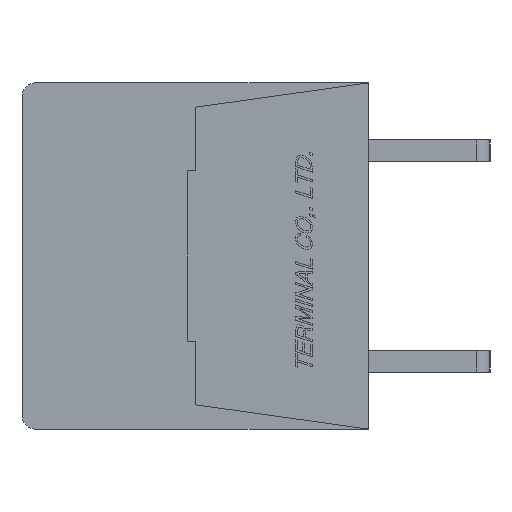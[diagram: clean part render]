
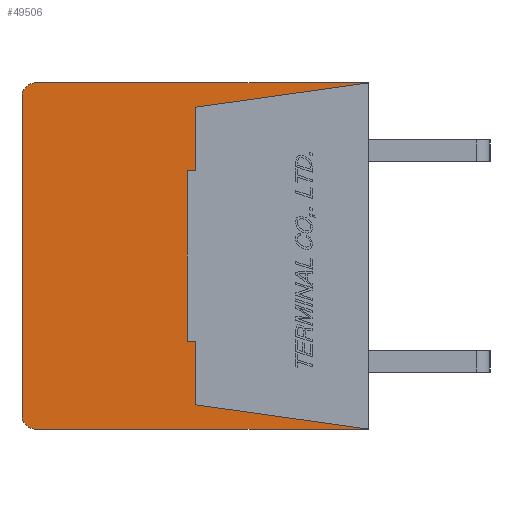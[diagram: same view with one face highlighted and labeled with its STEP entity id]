
A CAD part, left-side view. The second image highlights one B-rep face of the part: STEP entity #49506.
In plain terms, the highlighted planar face has unit normal (-1, 0, 0).
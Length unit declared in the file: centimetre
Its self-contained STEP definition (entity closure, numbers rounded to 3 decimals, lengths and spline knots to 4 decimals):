
#2501=CIRCLE('',#84793,0.05);
#2502=CIRCLE('',#84796,0.05);
#4346=VERTEX_POINT('',#68667);
#4347=VERTEX_POINT('',#68669);
#4348=VERTEX_POINT('',#68673);
#4349=VERTEX_POINT('',#68677);
#4350=VERTEX_POINT('',#68681);
#4351=VERTEX_POINT('',#68685);
#4352=VERTEX_POINT('',#68689);
#4353=VERTEX_POINT('',#68691);
#4354=VERTEX_POINT('',#68693);
#4355=VERTEX_POINT('',#68695);
#4356=VERTEX_POINT('',#68697);
#4357=VERTEX_POINT('',#68699);
#9583=VECTOR('',#57462,1.);
#9587=VECTOR('',#57471,1.);
#9590=VECTOR('',#57479,1.);
#9591=VECTOR('',#57481,1.);
#9592=VECTOR('',#57482,1.);
#9593=VECTOR('',#57483,1.);
#9594=VECTOR('',#57484,1.);
#9595=VECTOR('',#57485,1.);
#9596=VECTOR('',#57486,1.);
#9597=VECTOR('',#57487,1.);
#15398=LINE('',#68668,#9583);
#15402=LINE('',#68678,#9587);
#15405=LINE('',#68686,#9590);
#15406=LINE('',#68688,#9591);
#15407=LINE('',#68690,#9592);
#15408=LINE('',#68692,#9593);
#15409=LINE('',#68694,#9594);
#15410=LINE('',#68696,#9595);
#15411=LINE('',#68698,#9596);
#15412=LINE('',#68700,#9597);
#21883=EDGE_CURVE('',#4347,#4346,#15398,.T.);
#21886=EDGE_CURVE('',#4348,#4346,#2501,.T.);
#21888=EDGE_CURVE('',#4348,#4349,#15402,.T.);
#21890=EDGE_CURVE('',#4350,#4349,#2502,.T.);
#21892=EDGE_CURVE('',#4350,#4351,#15405,.T.);
#21893=EDGE_CURVE('',#4352,#4347,#15406,.T.);
#21894=EDGE_CURVE('',#4351,#4353,#15407,.T.);
#21895=EDGE_CURVE('',#4353,#4354,#15408,.T.);
#21896=EDGE_CURVE('',#4354,#4355,#15409,.T.);
#21897=EDGE_CURVE('',#4355,#4356,#15410,.T.);
#21898=EDGE_CURVE('',#4356,#4357,#15411,.T.);
#21899=EDGE_CURVE('',#4357,#4352,#15412,.T.);
#31905=ORIENTED_EDGE('',*,*,#21893,.T.);
#31906=ORIENTED_EDGE('',*,*,#21883,.T.);
#31907=ORIENTED_EDGE('',*,*,#21886,.F.);
#31908=ORIENTED_EDGE('',*,*,#21888,.T.);
#31909=ORIENTED_EDGE('',*,*,#21890,.F.);
#31910=ORIENTED_EDGE('',*,*,#21892,.T.);
#31911=ORIENTED_EDGE('',*,*,#21894,.T.);
#31912=ORIENTED_EDGE('',*,*,#21895,.T.);
#31913=ORIENTED_EDGE('',*,*,#21896,.T.);
#31914=ORIENTED_EDGE('',*,*,#21897,.T.);
#31915=ORIENTED_EDGE('',*,*,#21898,.T.);
#31916=ORIENTED_EDGE('',*,*,#21899,.T.);
#43102=EDGE_LOOP('',(#31905,#31906,#31907,#31908,#31909,#31910,#31911,#31912,
#31913,#31914,#31915,#31916));
#46371=FACE_BOUND('',#43102,.T.);
#49506=ADVANCED_FACE('',(#46371),#52225,.F.);
#52225=PLANE('',#84798);
#57462=DIRECTION('',(0.,1.,0.));
#57467=DIRECTION('',(1.,0.,0.));
#57468=DIRECTION('',(0.,0.,-0.05));
#57471=DIRECTION('',(0.,0.,-1.));
#57475=DIRECTION('',(1.,0.,0.));
#57476=DIRECTION('',(0.,0.,-0.05));
#57479=DIRECTION('',(0.,-1.,0.));
#57480=DIRECTION('',(1.,0.,0.));
#57481=DIRECTION('',(0.,-0.99,0.139));
#57482=DIRECTION('',(0.,0.99,0.139));
#57483=DIRECTION('',(0.,0.,1.));
#57484=DIRECTION('',(0.,1.,0.));
#57485=DIRECTION('',(0.,0.,1.));
#57486=DIRECTION('',(0.,-1.,0.));
#57487=DIRECTION('',(0.,0.,1.));
#68667=CARTESIAN_POINT('',(-1.,1.23,0.64));
#68668=CARTESIAN_POINT('',(-1.,0.,0.64));
#68669=CARTESIAN_POINT('',(-1.,0.,0.64));
#68673=CARTESIAN_POINT('',(-1.,1.28,0.59));
#68674=CARTESIAN_POINT('',(-1.,1.23,0.59));
#68677=CARTESIAN_POINT('',(-1.,1.28,-0.59));
#68678=CARTESIAN_POINT('',(-1.,1.28,0.59));
#68681=CARTESIAN_POINT('',(-1.,1.23,-0.64));
#68682=CARTESIAN_POINT('',(-1.,1.23,-0.59));
#68685=CARTESIAN_POINT('',(-1.,0.,-0.64));
#68686=CARTESIAN_POINT('',(-1.,1.23,-0.64));
#68687=CARTESIAN_POINT('',(-1.,0.6345,0.));
#68688=CARTESIAN_POINT('',(-1.,0.64,0.55));
#68689=CARTESIAN_POINT('',(-1.,0.64,0.55));
#68690=CARTESIAN_POINT('',(-1.,0.,-0.64));
#68691=CARTESIAN_POINT('',(-1.,0.64,-0.55));
#68692=CARTESIAN_POINT('',(-1.,0.64,-0.55));
#68693=CARTESIAN_POINT('',(-1.,0.64,-0.315));
#68694=CARTESIAN_POINT('',(-1.,0.64,-0.315));
#68695=CARTESIAN_POINT('',(-1.,0.67,-0.315));
#68696=CARTESIAN_POINT('',(-1.,0.67,-0.315));
#68697=CARTESIAN_POINT('',(-1.,0.67,0.315));
#68698=CARTESIAN_POINT('',(-1.,0.67,0.315));
#68699=CARTESIAN_POINT('',(-1.,0.64,0.315));
#68700=CARTESIAN_POINT('',(-1.,0.64,0.315));
#84793=AXIS2_PLACEMENT_3D('',#68674,#57467,#57468);
#84796=AXIS2_PLACEMENT_3D('',#68682,#57475,#57476);
#84798=AXIS2_PLACEMENT_3D('',#68687,#57480,$);
